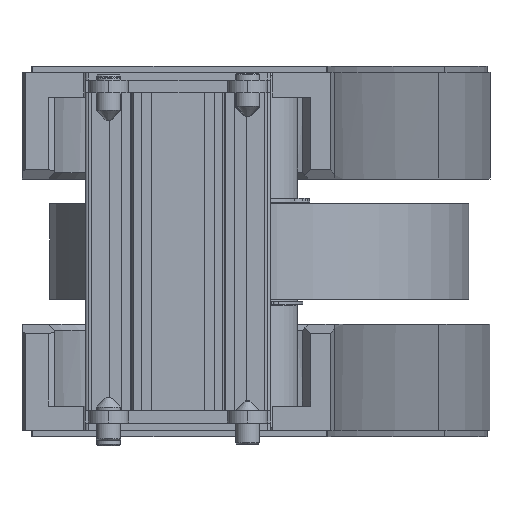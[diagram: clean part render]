
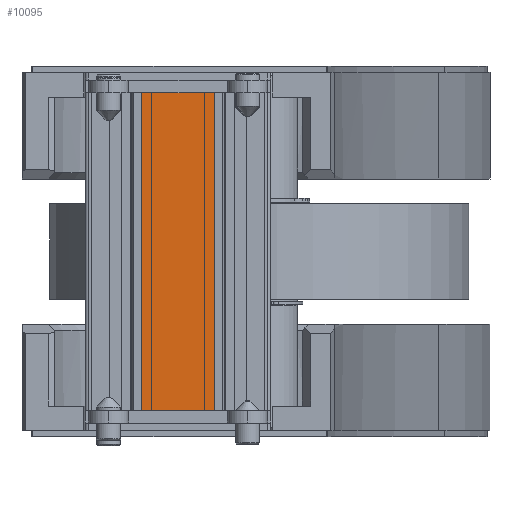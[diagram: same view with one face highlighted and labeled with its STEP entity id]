
A CAD part, left-side view. The second image highlights one B-rep face of the part: STEP entity #10095.
In plain terms, the highlighted planar face has unit normal (-1, 0, 0) as drawn and (1, 0, 0) by its records, which use the part's own axes.
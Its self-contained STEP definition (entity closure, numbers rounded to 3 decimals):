
#172 = VECTOR ( 'NONE', #14036, 1000. ) ;
#1077 = CARTESIAN_POINT ( 'NONE',  ( 15., 3.15, 103. ) ) ;
#1168 = VECTOR ( 'NONE', #5509, 1000. ) ;
#1705 = EDGE_LOOP ( 'NONE', ( #11861, #8832, #2079, #3167 ) ) ;
#2079 = ORIENTED_EDGE ( 'NONE', *, *, #3973, .F. ) ;
#2226 = LINE ( 'NONE', #11975, #11568 ) ;
#3167 = ORIENTED_EDGE ( 'NONE', *, *, #13952, .T. ) ;
#3194 = LINE ( 'NONE', #5178, #172 ) ;
#3973 = EDGE_CURVE ( 'NONE', #7872, #9091, #2226, .T. ) ;
#4385 = PLANE ( 'NONE',  #6194 ) ;
#4587 = LINE ( 'NONE', #14350, #1168 ) ;
#4657 = CARTESIAN_POINT ( 'NONE',  ( 15., 26.85, 0. ) ) ;
#5048 = EDGE_CURVE ( 'NONE', #9091, #12621, #4587, .T. ) ;
#5178 = CARTESIAN_POINT ( 'NONE',  ( 15., 26.85, 0. ) ) ;
#5509 = DIRECTION ( 'NONE',  ( 0., 0., -1. ) ) ;
#5676 = DIRECTION ( 'NONE',  ( -1., 0., 0. ) ) ;
#6194 = AXIS2_PLACEMENT_3D ( 'NONE', #9431, #5676, #14518 ) ;
#6923 = DIRECTION ( 'NONE',  ( 0., 1., 0. ) ) ;
#7872 = VERTEX_POINT ( 'NONE', #11853 ) ;
#8832 = ORIENTED_EDGE ( 'NONE', *, *, #5048, .F. ) ;
#9091 = VERTEX_POINT ( 'NONE', #13087 ) ;
#9431 = CARTESIAN_POINT ( 'NONE',  ( 15., 26.85, 103. ) ) ;
#10095 = ADVANCED_FACE ( 'NONE', ( #14264 ), #4385, .F. ) ;
#10177 = CARTESIAN_POINT ( 'NONE',  ( 15., 3.15, 0. ) ) ;
#10384 = VECTOR ( 'NONE', #15060, 1000. ) ;
#10801 = LINE ( 'NONE', #1077, #10384 ) ;
#11568 = VECTOR ( 'NONE', #6923, 1000. ) ;
#11853 = CARTESIAN_POINT ( 'NONE',  ( 15., 3.15, 103. ) ) ;
#11861 = ORIENTED_EDGE ( 'NONE', *, *, #15226, .T. ) ;
#11975 = CARTESIAN_POINT ( 'NONE',  ( 15., 26.85, 103. ) ) ;
#12621 = VERTEX_POINT ( 'NONE', #4657 ) ;
#12821 = VERTEX_POINT ( 'NONE', #10177 ) ;
#13087 = CARTESIAN_POINT ( 'NONE',  ( 15., 26.85, 103. ) ) ;
#13952 = EDGE_CURVE ( 'NONE', #7872, #12821, #10801, .T. ) ;
#14036 = DIRECTION ( 'NONE',  ( 0., 1., 0. ) ) ;
#14264 = FACE_OUTER_BOUND ( 'NONE', #1705, .T. ) ;
#14350 = CARTESIAN_POINT ( 'NONE',  ( 15., 26.85, 103. ) ) ;
#14518 = DIRECTION ( 'NONE',  ( 0., 0., 1. ) ) ;
#15060 = DIRECTION ( 'NONE',  ( 0., 0., -1. ) ) ;
#15226 = EDGE_CURVE ( 'NONE', #12821, #12621, #3194, .T. ) ;
